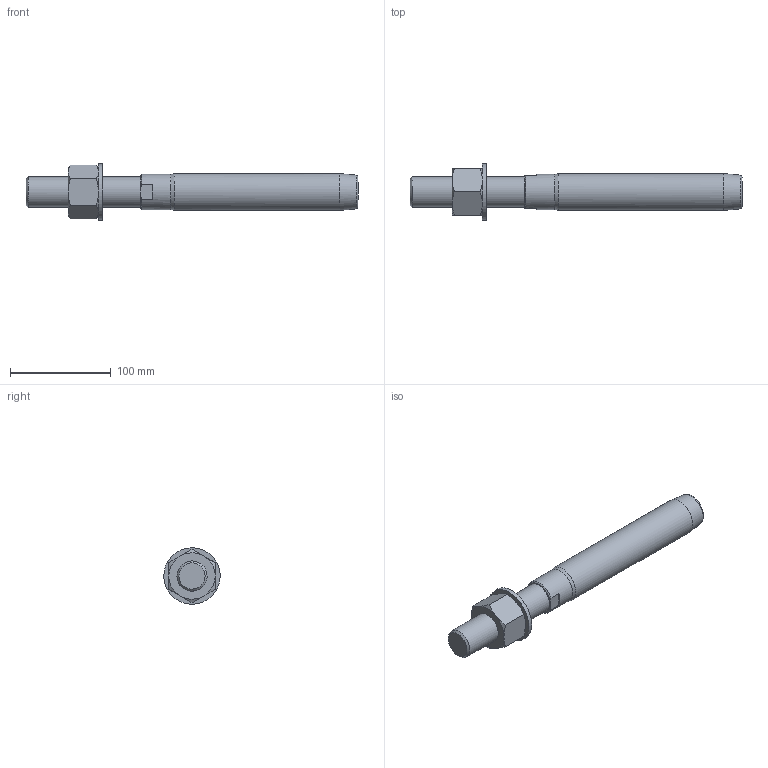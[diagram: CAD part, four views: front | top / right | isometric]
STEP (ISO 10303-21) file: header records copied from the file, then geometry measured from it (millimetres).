
FILE_DESCRIPTION(/* description */ (''),/* implementation_level */ '2;1');
FILE_NAME(/* name */ 'FLT 20_42CrMo4',/* time_stamp */ '2023-05-23T15:57:51+02:00',/* author */ (''),/* organization */ (''),/* preprocessor_version */ 'ST-DEVELOPER v16.5',/* originating_system */ 'Rhino 7.22',/* authorisation */ '');
FILE_SCHEMA (('CONFIG_CONTROL_DESIGN'));
Length unit declared in the file: millimetre
Products named in the file (1): Document
Bounding box: 330 x 56 x 55.86 mm (x, y, z)
Volume: 349658.4 mm3; surface area: 51076.5 mm2
Topology: 3 solids, 3 shells, 43 faces, 104 edges, 68 vertices
Faces by surface type: bspline 20, plane 17, cylinder 6
Full cylindrical faces by diameter (mm): 26.211 x1, 30 x1, 31 x1, 35 x1, 36.8 x1, 56 x1
Entity records: 1590 total; most frequent: CARTESIAN_POINT 881, ORIENTED_EDGE 208, EDGE_CURVE 104, VERTEX_POINT 68, EDGE_LOOP 48, ADVANCED_FACE 43, FACE_OUTER_BOUND 43, DIRECTION 27
